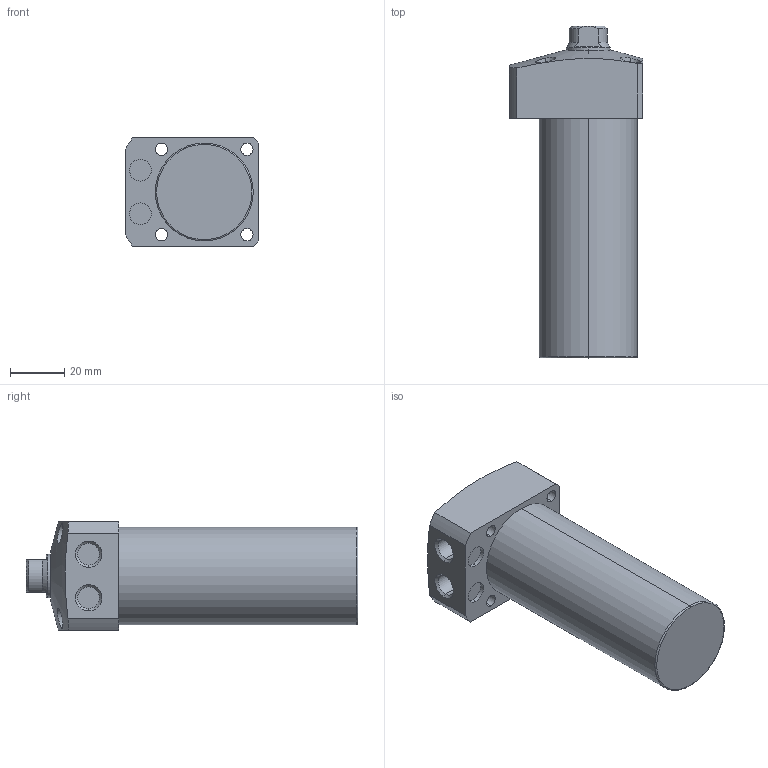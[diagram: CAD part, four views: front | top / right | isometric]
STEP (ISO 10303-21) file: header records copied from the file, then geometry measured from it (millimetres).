
FILE_DESCRIPTION (( 'STEP AP203' ), '1' );
FILE_NAME ('CLL-036CA-065.STEP', '2019-12-20T09:06:33', ( '' ), ( '' ), 'SwSTEP 2.0', 'SolidWorks 2015', '' );
FILE_SCHEMA (( 'CONFIG_CONTROL_DESIGN' ));
Length unit declared in the file: millimetre
Products named in the file (1): CLL-036CA-065
Bounding box: 49 x 122 x 40 mm (x, y, z)
Volume: 131015.5 mm3; surface area: 20128.1 mm2
Topology: 1 solids, 1 shells, 72 faces, 166 edges, 105 vertices
Faces by surface type: cylinder 34, plane 22, cone 14, torus 2
Entity records: 2453 total; most frequent: CARTESIAN_POINT 708, DIRECTION 364, ORIENTED_EDGE 328, EDGE_CURVE 164, AXIS2_PLACEMENT_3D 151, VERTEX_POINT 105, EDGE_LOOP 91, CIRCLE 78
